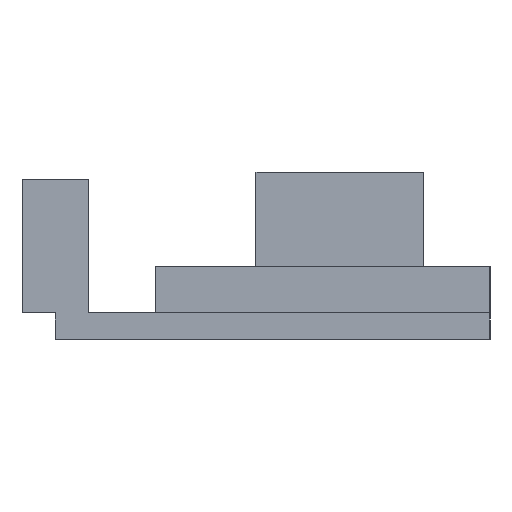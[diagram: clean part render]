
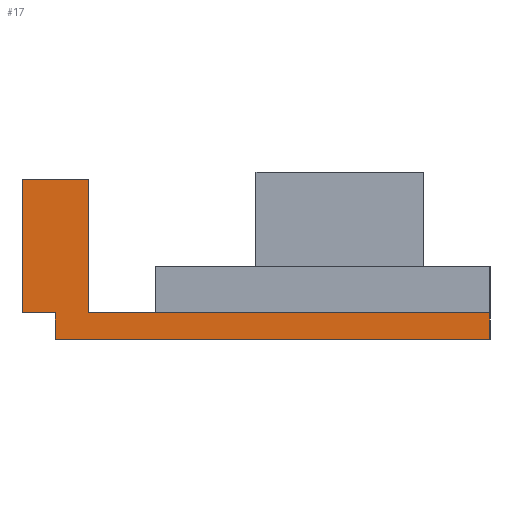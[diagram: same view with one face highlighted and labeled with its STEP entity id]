
A CAD part, left-side view. The second image highlights one B-rep face of the part: STEP entity #17.
In plain terms, the highlighted planar face has unit normal (-1, 0, 0).
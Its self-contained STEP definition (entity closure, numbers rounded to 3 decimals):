
#17 = ADVANCED_FACE('',(#18),#32,.F.);
#18 = FACE_BOUND('',#19,.F.);
#19 = EDGE_LOOP('',(#20,#55,#83,#111,#139,#167,#195,#223,#251));
#20 = ORIENTED_EDGE('',*,*,#21,.F.);
#21 = EDGE_CURVE('',#22,#24,#26,.T.);
#22 = VERTEX_POINT('',#23);
#23 = CARTESIAN_POINT('',(20.,5.,2.8));
#24 = VERTEX_POINT('',#25);
#25 = CARTESIAN_POINT('',(20.,5.,3.6));
#26 = SURFACE_CURVE('',#27,(#31,#43),.PCURVE_S1.);
#27 = LINE('',#28,#29);
#28 = CARTESIAN_POINT('',(20.,5.,2.8));
#29 = VECTOR('',#30,1.);
#30 = DIRECTION('',(0.,0.,1.));
#31 = PCURVE('',#32,#37);
#32 = PLANE('',#33);
#33 = AXIS2_PLACEMENT_3D('',#34,#35,#36);
#34 = CARTESIAN_POINT('',(20.,5.,2.8));
#35 = DIRECTION('',(1.,0.,0.));
#36 = DIRECTION('',(0.,0.,1.));
#37 = DEFINITIONAL_REPRESENTATION('',(#38),#42);
#38 = LINE('',#39,#40);
#39 = CARTESIAN_POINT('',(0.,0.));
#40 = VECTOR('',#41,1.);
#41 = DIRECTION('',(1.,0.));
#42 = ( GEOMETRIC_REPRESENTATION_CONTEXT(2) 
PARAMETRIC_REPRESENTATION_CONTEXT() REPRESENTATION_CONTEXT('2D SPACE',''
  ) );
#43 = PCURVE('',#44,#49);
#44 = PLANE('',#45);
#45 = AXIS2_PLACEMENT_3D('',#46,#47,#48);
#46 = CARTESIAN_POINT('',(20.,5.,2.8));
#47 = DIRECTION('',(0.,1.,0.));
#48 = DIRECTION('',(0.,0.,1.));
#49 = DEFINITIONAL_REPRESENTATION('',(#50),#54);
#50 = LINE('',#51,#52);
#51 = CARTESIAN_POINT('',(0.,0.));
#52 = VECTOR('',#53,1.);
#53 = DIRECTION('',(1.,0.));
#54 = ( GEOMETRIC_REPRESENTATION_CONTEXT(2) 
PARAMETRIC_REPRESENTATION_CONTEXT() REPRESENTATION_CONTEXT('2D SPACE',''
  ) );
#55 = ORIENTED_EDGE('',*,*,#56,.T.);
#56 = EDGE_CURVE('',#22,#57,#59,.T.);
#57 = VERTEX_POINT('',#58);
#58 = CARTESIAN_POINT('',(20.,18.,2.8));
#59 = SURFACE_CURVE('',#60,(#64,#71),.PCURVE_S1.);
#60 = LINE('',#61,#62);
#61 = CARTESIAN_POINT('',(20.,5.,2.8));
#62 = VECTOR('',#63,1.);
#63 = DIRECTION('',(0.,1.,0.));
#64 = PCURVE('',#32,#65);
#65 = DEFINITIONAL_REPRESENTATION('',(#66),#70);
#66 = LINE('',#67,#68);
#67 = CARTESIAN_POINT('',(0.,0.));
#68 = VECTOR('',#69,1.);
#69 = DIRECTION('',(0.,-1.));
#70 = ( GEOMETRIC_REPRESENTATION_CONTEXT(2) 
PARAMETRIC_REPRESENTATION_CONTEXT() REPRESENTATION_CONTEXT('2D SPACE',''
  ) );
#71 = PCURVE('',#72,#77);
#72 = PLANE('',#73);
#73 = AXIS2_PLACEMENT_3D('',#74,#75,#76);
#74 = CARTESIAN_POINT('',(20.,5.,2.8));
#75 = DIRECTION('',(0.,0.,1.));
#76 = DIRECTION('',(1.,0.,0.));
#77 = DEFINITIONAL_REPRESENTATION('',(#78),#82);
#78 = LINE('',#79,#80);
#79 = CARTESIAN_POINT('',(0.,0.));
#80 = VECTOR('',#81,1.);
#81 = DIRECTION('',(0.,1.));
#82 = ( GEOMETRIC_REPRESENTATION_CONTEXT(2) 
PARAMETRIC_REPRESENTATION_CONTEXT() REPRESENTATION_CONTEXT('2D SPACE',''
  ) );
#83 = ORIENTED_EDGE('',*,*,#84,.T.);
#84 = EDGE_CURVE('',#57,#85,#87,.T.);
#85 = VERTEX_POINT('',#86);
#86 = CARTESIAN_POINT('',(20.,18.,3.6));
#87 = SURFACE_CURVE('',#88,(#92,#99),.PCURVE_S1.);
#88 = LINE('',#89,#90);
#89 = CARTESIAN_POINT('',(20.,18.,2.8));
#90 = VECTOR('',#91,1.);
#91 = DIRECTION('',(0.,0.,1.));
#92 = PCURVE('',#32,#93);
#93 = DEFINITIONAL_REPRESENTATION('',(#94),#98);
#94 = LINE('',#95,#96);
#95 = CARTESIAN_POINT('',(0.,-13.));
#96 = VECTOR('',#97,1.);
#97 = DIRECTION('',(1.,0.));
#98 = ( GEOMETRIC_REPRESENTATION_CONTEXT(2) 
PARAMETRIC_REPRESENTATION_CONTEXT() REPRESENTATION_CONTEXT('2D SPACE',''
  ) );
#99 = PCURVE('',#100,#105);
#100 = PLANE('',#101);
#101 = AXIS2_PLACEMENT_3D('',#102,#103,#104);
#102 = CARTESIAN_POINT('',(20.,18.,2.8));
#103 = DIRECTION('',(0.,1.,0.));
#104 = DIRECTION('',(0.,0.,1.));
#105 = DEFINITIONAL_REPRESENTATION('',(#106),#110);
#106 = LINE('',#107,#108);
#107 = CARTESIAN_POINT('',(0.,0.));
#108 = VECTOR('',#109,1.);
#109 = DIRECTION('',(1.,0.));
#110 = ( GEOMETRIC_REPRESENTATION_CONTEXT(2) 
PARAMETRIC_REPRESENTATION_CONTEXT() REPRESENTATION_CONTEXT('2D SPACE',''
  ) );
#111 = ORIENTED_EDGE('',*,*,#112,.T.);
#112 = EDGE_CURVE('',#85,#113,#115,.T.);
#113 = VERTEX_POINT('',#114);
#114 = CARTESIAN_POINT('',(20.,19.,3.6));
#115 = SURFACE_CURVE('',#116,(#120,#127),.PCURVE_S1.);
#116 = LINE('',#117,#118);
#117 = CARTESIAN_POINT('',(20.,17.,3.6));
#118 = VECTOR('',#119,1.);
#119 = DIRECTION('',(0.,1.,0.));
#120 = PCURVE('',#32,#121);
#121 = DEFINITIONAL_REPRESENTATION('',(#122),#126);
#122 = LINE('',#123,#124);
#123 = CARTESIAN_POINT('',(0.8,-12.));
#124 = VECTOR('',#125,1.);
#125 = DIRECTION('',(0.,-1.));
#126 = ( GEOMETRIC_REPRESENTATION_CONTEXT(2) 
PARAMETRIC_REPRESENTATION_CONTEXT() REPRESENTATION_CONTEXT('2D SPACE',''
  ) );
#127 = PCURVE('',#128,#133);
#128 = PLANE('',#129);
#129 = AXIS2_PLACEMENT_3D('',#130,#131,#132);
#130 = CARTESIAN_POINT('',(20.,17.,3.6));
#131 = DIRECTION('',(0.,0.,1.));
#132 = DIRECTION('',(1.,0.,0.));
#133 = DEFINITIONAL_REPRESENTATION('',(#134),#138);
#134 = LINE('',#135,#136);
#135 = CARTESIAN_POINT('',(0.,0.));
#136 = VECTOR('',#137,1.);
#137 = DIRECTION('',(0.,1.));
#138 = ( GEOMETRIC_REPRESENTATION_CONTEXT(2) 
PARAMETRIC_REPRESENTATION_CONTEXT() REPRESENTATION_CONTEXT('2D SPACE',''
  ) );
#139 = ORIENTED_EDGE('',*,*,#140,.T.);
#140 = EDGE_CURVE('',#113,#141,#143,.T.);
#141 = VERTEX_POINT('',#142);
#142 = CARTESIAN_POINT('',(20.,19.,7.6));
#143 = SURFACE_CURVE('',#144,(#148,#155),.PCURVE_S1.);
#144 = LINE('',#145,#146);
#145 = CARTESIAN_POINT('',(20.,19.,3.6));
#146 = VECTOR('',#147,1.);
#147 = DIRECTION('',(0.,0.,1.));
#148 = PCURVE('',#32,#149);
#149 = DEFINITIONAL_REPRESENTATION('',(#150),#154);
#150 = LINE('',#151,#152);
#151 = CARTESIAN_POINT('',(0.8,-14.));
#152 = VECTOR('',#153,1.);
#153 = DIRECTION('',(1.,0.));
#154 = ( GEOMETRIC_REPRESENTATION_CONTEXT(2) 
PARAMETRIC_REPRESENTATION_CONTEXT() REPRESENTATION_CONTEXT('2D SPACE',''
  ) );
#155 = PCURVE('',#156,#161);
#156 = PLANE('',#157);
#157 = AXIS2_PLACEMENT_3D('',#158,#159,#160);
#158 = CARTESIAN_POINT('',(20.,19.,3.6));
#159 = DIRECTION('',(0.,1.,0.));
#160 = DIRECTION('',(0.,0.,1.));
#161 = DEFINITIONAL_REPRESENTATION('',(#162),#166);
#162 = LINE('',#163,#164);
#163 = CARTESIAN_POINT('',(0.,0.));
#164 = VECTOR('',#165,1.);
#165 = DIRECTION('',(1.,0.));
#166 = ( GEOMETRIC_REPRESENTATION_CONTEXT(2) 
PARAMETRIC_REPRESENTATION_CONTEXT() REPRESENTATION_CONTEXT('2D SPACE',''
  ) );
#167 = ORIENTED_EDGE('',*,*,#168,.F.);
#168 = EDGE_CURVE('',#169,#141,#171,.T.);
#169 = VERTEX_POINT('',#170);
#170 = CARTESIAN_POINT('',(20.,17.,7.6));
#171 = SURFACE_CURVE('',#172,(#176,#183),.PCURVE_S1.);
#172 = LINE('',#173,#174);
#173 = CARTESIAN_POINT('',(20.,17.,7.6));
#174 = VECTOR('',#175,1.);
#175 = DIRECTION('',(0.,1.,0.));
#176 = PCURVE('',#32,#177);
#177 = DEFINITIONAL_REPRESENTATION('',(#178),#182);
#178 = LINE('',#179,#180);
#179 = CARTESIAN_POINT('',(4.8,-12.));
#180 = VECTOR('',#181,1.);
#181 = DIRECTION('',(0.,-1.));
#182 = ( GEOMETRIC_REPRESENTATION_CONTEXT(2) 
PARAMETRIC_REPRESENTATION_CONTEXT() REPRESENTATION_CONTEXT('2D SPACE',''
  ) );
#183 = PCURVE('',#184,#189);
#184 = PLANE('',#185);
#185 = AXIS2_PLACEMENT_3D('',#186,#187,#188);
#186 = CARTESIAN_POINT('',(20.,17.,7.6));
#187 = DIRECTION('',(0.,0.,1.));
#188 = DIRECTION('',(1.,0.,0.));
#189 = DEFINITIONAL_REPRESENTATION('',(#190),#194);
#190 = LINE('',#191,#192);
#191 = CARTESIAN_POINT('',(0.,0.));
#192 = VECTOR('',#193,1.);
#193 = DIRECTION('',(0.,1.));
#194 = ( GEOMETRIC_REPRESENTATION_CONTEXT(2) 
PARAMETRIC_REPRESENTATION_CONTEXT() REPRESENTATION_CONTEXT('2D SPACE',''
  ) );
#195 = ORIENTED_EDGE('',*,*,#196,.F.);
#196 = EDGE_CURVE('',#197,#169,#199,.T.);
#197 = VERTEX_POINT('',#198);
#198 = CARTESIAN_POINT('',(20.,17.,3.6));
#199 = SURFACE_CURVE('',#200,(#204,#211),.PCURVE_S1.);
#200 = LINE('',#201,#202);
#201 = CARTESIAN_POINT('',(20.,17.,3.6));
#202 = VECTOR('',#203,1.);
#203 = DIRECTION('',(0.,0.,1.));
#204 = PCURVE('',#32,#205);
#205 = DEFINITIONAL_REPRESENTATION('',(#206),#210);
#206 = LINE('',#207,#208);
#207 = CARTESIAN_POINT('',(0.8,-12.));
#208 = VECTOR('',#209,1.);
#209 = DIRECTION('',(1.,0.));
#210 = ( GEOMETRIC_REPRESENTATION_CONTEXT(2) 
PARAMETRIC_REPRESENTATION_CONTEXT() REPRESENTATION_CONTEXT('2D SPACE',''
  ) );
#211 = PCURVE('',#212,#217);
#212 = PLANE('',#213);
#213 = AXIS2_PLACEMENT_3D('',#214,#215,#216);
#214 = CARTESIAN_POINT('',(20.,17.,3.6));
#215 = DIRECTION('',(0.,1.,0.));
#216 = DIRECTION('',(0.,0.,1.));
#217 = DEFINITIONAL_REPRESENTATION('',(#218),#222);
#218 = LINE('',#219,#220);
#219 = CARTESIAN_POINT('',(0.,0.));
#220 = VECTOR('',#221,1.);
#221 = DIRECTION('',(1.,0.));
#222 = ( GEOMETRIC_REPRESENTATION_CONTEXT(2) 
PARAMETRIC_REPRESENTATION_CONTEXT() REPRESENTATION_CONTEXT('2D SPACE',''
  ) );
#223 = ORIENTED_EDGE('',*,*,#224,.F.);
#224 = EDGE_CURVE('',#225,#197,#227,.T.);
#225 = VERTEX_POINT('',#226);
#226 = CARTESIAN_POINT('',(20.,15.,3.6));
#227 = SURFACE_CURVE('',#228,(#232,#239),.PCURVE_S1.);
#228 = LINE('',#229,#230);
#229 = CARTESIAN_POINT('',(20.,5.,3.6));
#230 = VECTOR('',#231,1.);
#231 = DIRECTION('',(0.,1.,0.));
#232 = PCURVE('',#32,#233);
#233 = DEFINITIONAL_REPRESENTATION('',(#234),#238);
#234 = LINE('',#235,#236);
#235 = CARTESIAN_POINT('',(0.8,0.));
#236 = VECTOR('',#237,1.);
#237 = DIRECTION('',(0.,-1.));
#238 = ( GEOMETRIC_REPRESENTATION_CONTEXT(2) 
PARAMETRIC_REPRESENTATION_CONTEXT() REPRESENTATION_CONTEXT('2D SPACE',''
  ) );
#239 = PCURVE('',#240,#245);
#240 = PLANE('',#241);
#241 = AXIS2_PLACEMENT_3D('',#242,#243,#244);
#242 = CARTESIAN_POINT('',(20.,5.,3.6));
#243 = DIRECTION('',(0.,0.,1.));
#244 = DIRECTION('',(1.,0.,0.));
#245 = DEFINITIONAL_REPRESENTATION('',(#246),#250);
#246 = LINE('',#247,#248);
#247 = CARTESIAN_POINT('',(0.,0.));
#248 = VECTOR('',#249,1.);
#249 = DIRECTION('',(0.,1.));
#250 = ( GEOMETRIC_REPRESENTATION_CONTEXT(2) 
PARAMETRIC_REPRESENTATION_CONTEXT() REPRESENTATION_CONTEXT('2D SPACE',''
  ) );
#251 = ORIENTED_EDGE('',*,*,#252,.F.);
#252 = EDGE_CURVE('',#24,#225,#253,.T.);
#253 = SURFACE_CURVE('',#254,(#258,#265),.PCURVE_S1.);
#254 = LINE('',#255,#256);
#255 = CARTESIAN_POINT('',(20.,5.,3.6));
#256 = VECTOR('',#257,1.);
#257 = DIRECTION('',(0.,1.,0.));
#258 = PCURVE('',#32,#259);
#259 = DEFINITIONAL_REPRESENTATION('',(#260),#264);
#260 = LINE('',#261,#262);
#261 = CARTESIAN_POINT('',(0.8,0.));
#262 = VECTOR('',#263,1.);
#263 = DIRECTION('',(0.,-1.));
#264 = ( GEOMETRIC_REPRESENTATION_CONTEXT(2) 
PARAMETRIC_REPRESENTATION_CONTEXT() REPRESENTATION_CONTEXT('2D SPACE',''
  ) );
#265 = PCURVE('',#266,#271);
#266 = PLANE('',#267);
#267 = AXIS2_PLACEMENT_3D('',#268,#269,#270);
#268 = CARTESIAN_POINT('',(18.,5.,3.6));
#269 = DIRECTION('',(0.,0.,1.));
#270 = DIRECTION('',(1.,0.,0.));
#271 = DEFINITIONAL_REPRESENTATION('',(#272),#276);
#272 = LINE('',#273,#274);
#273 = CARTESIAN_POINT('',(2.,0.));
#274 = VECTOR('',#275,1.);
#275 = DIRECTION('',(0.,1.));
#276 = ( GEOMETRIC_REPRESENTATION_CONTEXT(2) 
PARAMETRIC_REPRESENTATION_CONTEXT() REPRESENTATION_CONTEXT('2D SPACE',''
  ) );
